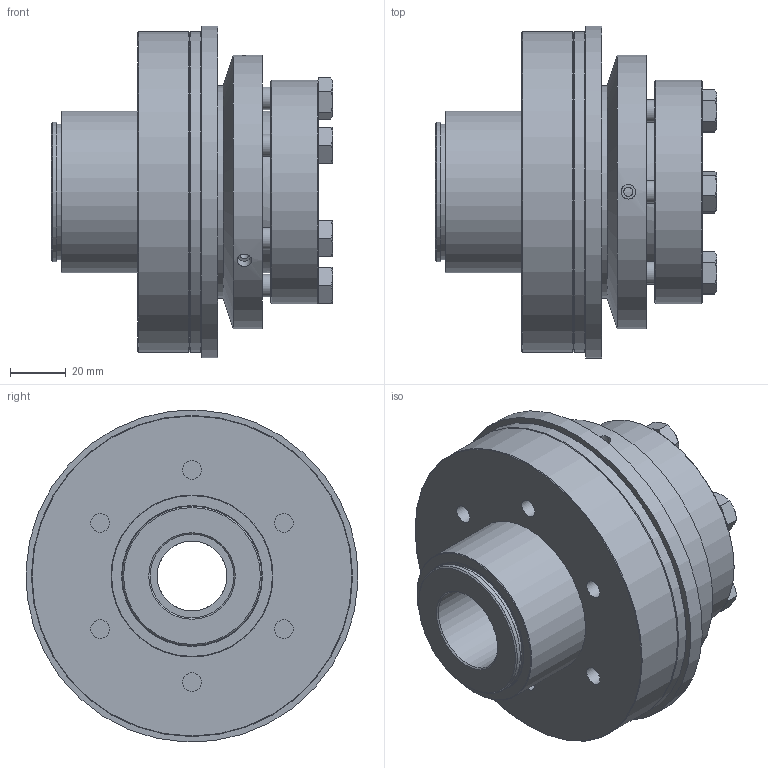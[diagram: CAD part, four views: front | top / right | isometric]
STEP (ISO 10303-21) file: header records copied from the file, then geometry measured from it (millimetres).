
FILE_DESCRIPTION( ( 'Unknown' ), '1' );
FILE_NAME( 'C:/Users/TWalzel/Documents/CAD-Daten/KBK-CA/300/KBK C-A-300.stp', 'Unknown', ( 'Unknown' ), ( 'Unknown' ), 'PSStep 16.0.42', 'Unknown', ' ' );
FILE_SCHEMA( ( 'AUTOMOTIVE_DESIGN { 1 0 10303 214 1 1 1 1 }' ) );
Length unit declared in the file: millimetre
Products named in the file (11): Druckring 300; Stellring 300; din_en_24017_m8x30; Druckring L-A-300; Assem1; Grundkörper C-A-300_1; Flansch-Gleitlager  CK-300
Assembly tree (15 placements, depth 3):
  Assem1
    Grundkörper C-A-300_1
    Flansch-Gleitlager  CK-300
    Druckring L-A-300
      Druckring L-A-300
    Stellring 300
      Stellring 300
    Druckring 300
      Druckring 300
    din_en_24017_m8x30  x6
      din_en_24017_m8x30
Bounding box: 100.7 x 118.89 x 118.89 mm (x, y, z)
Volume: 512620.8 mm3; surface area: 135268.8 mm2
Topology: 11 solids, 11 shells, 250 faces, 527 edges, 335 vertices
Faces by surface type: plane 112, cone 72, cylinder 59, torus 7
Full cylindrical faces by diameter (mm): 3.242 x3, 5.2 x3, 6.647 x18, 8 x6, 8.5 x6, 11.63 x6, 25 x1, 30 x1, 48.5 x1, 50 x3, 57.995 x1, 58 x1, 76 x2, 80 x1, 88 x1, 98 x1, 98.5 x1, 115 x2, 119 x1
Entity records: 5036 total; most frequent: CARTESIAN_POINT 952, DIRECTION 640, ORIENTED_EDGE 408, AXIS2_PLACEMENT_3D 302, EDGE_LOOP 260, EDGE_CURVE 204, FACE_OUTER_BOUND 191, VERTEX_POINT 168
